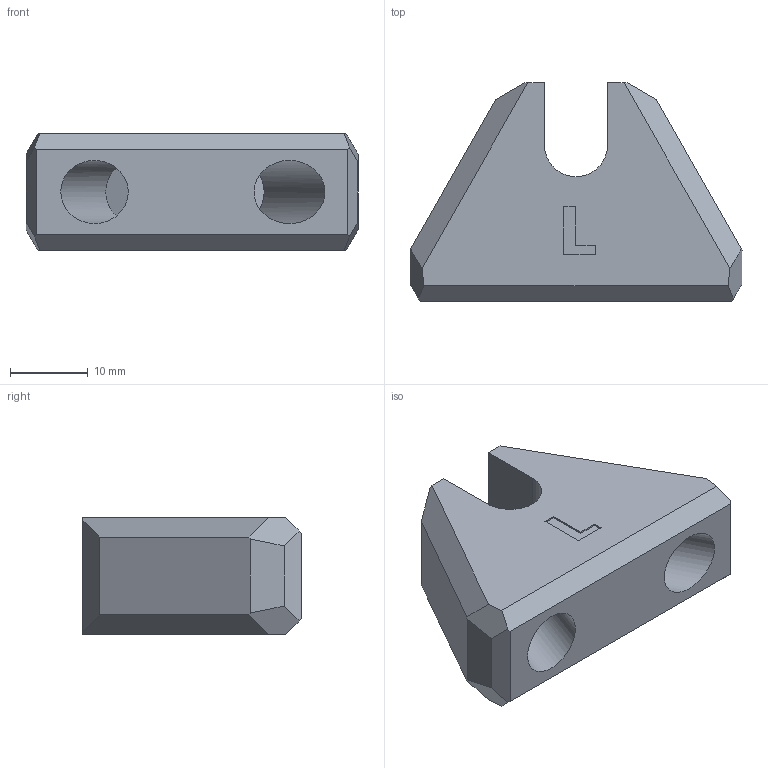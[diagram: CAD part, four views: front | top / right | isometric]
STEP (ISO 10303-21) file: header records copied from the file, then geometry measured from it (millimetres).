
FILE_DESCRIPTION(/* description */ (''),/* implementation_level */ '2;1');
FILE_NAME(/* name */ 'D:\3D печать\Мои проекты\Archy MK 2\STEP\крепление вала под катушку.stp',/* time_stamp */ '2019-03-20T22:11:58+06:00',/* author */ ('Пользователь'),/* organization */ (''),/* preprocessor_version */ 'ST-DEVELOPER v16.5',/* originating_system */ 'Autodesk Inventor 2017',/* authorisation */ '');
FILE_SCHEMA (('AUTOMOTIVE_DESIGN { 1 0 10303 214 3 1 1 }'));
Length unit declared in the file: millimetre
Products named in the file (1): крепление \X2\04320430
043B0430\X0\ под катушку
Bounding box: 42.58 x 28 x 15 mm (x, y, z)
Volume: 10392.2 mm3; surface area: 4250.6 mm2
Topology: 1 solids, 1 shells, 57 faces, 150 edges, 100 vertices
Faces by surface type: plane 47, bspline 7, cylinder 3
Full cylindrical faces by diameter (mm): 8.1 x2
Entity records: 1786 total; most frequent: CARTESIAN_POINT 397, ORIENTED_EDGE 296, DIRECTION 242, EDGE_CURVE 148, LINE 128, VECTOR 128, VERTEX_POINT 100, EDGE_LOOP 64
